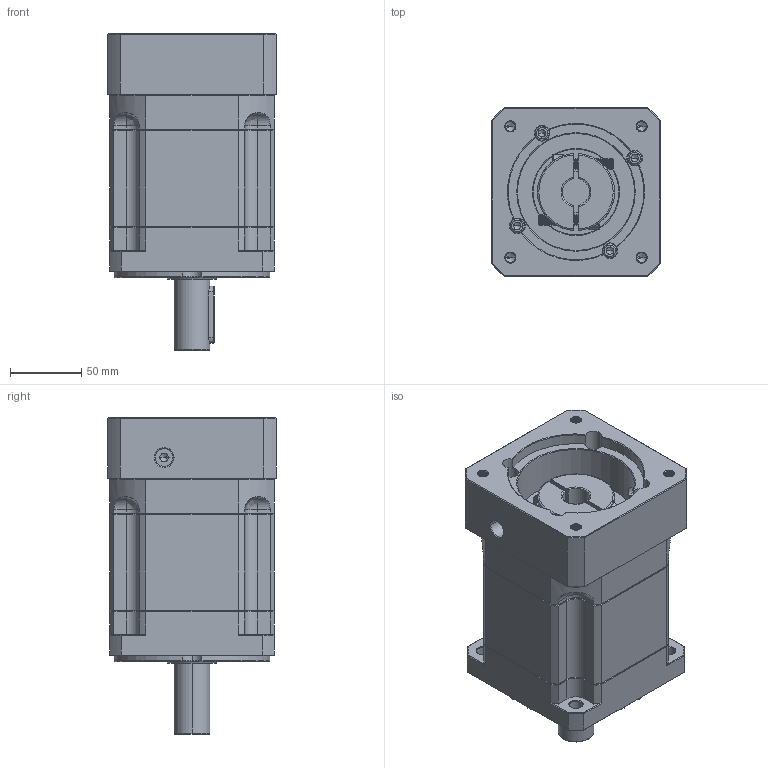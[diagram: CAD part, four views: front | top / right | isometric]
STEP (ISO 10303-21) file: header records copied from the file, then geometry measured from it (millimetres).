
FILE_DESCRIPTION (( 'STEP AP214' ), '1' );
FILE_NAME ('ZB115A-D25-L2-19-95-130-M8.step', '2023-03-02T08:57:13', ( '' ), ( 'Microsoft' ), 'SwSTEP 2.0', 'SolidWorks 2016', '' );
FILE_SCHEMA (( 'AUTOMOTIVE_DESIGN' ));
Length unit declared in the file: millimetre
Products named in the file (1): ZB115A-D25-L2-19-95-130-M8
Bounding box: 118 x 118 x 222 mm (x, y, z)
Volume: 1893768.3 mm3; surface area: 181421.3 mm2
Topology: 6 solids, 6 shells, 2124 faces, 5501 edges, 3468 vertices
Faces by surface type: plane 964, cylinder 444, cone 371, bspline 325, torus 20
Entity records: 113615 total; most frequent: CARTESIAN_POINT 41285, ORIENTED_EDGE 10934, DIRECTION 8975, EDGE_CURVE 5467, VERTEX_POINT 3468, LINE 3381, VECTOR 3381, AXIS2_PLACEMENT_3D 2797
